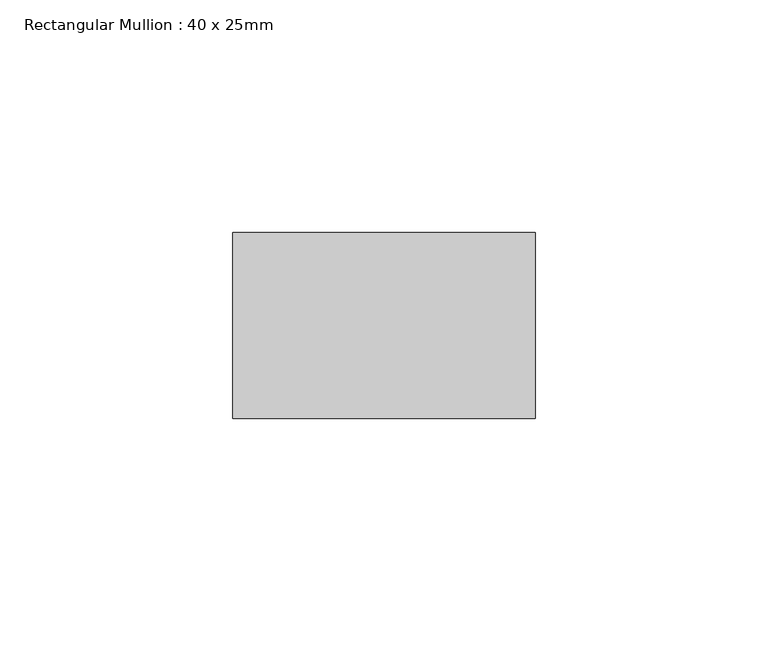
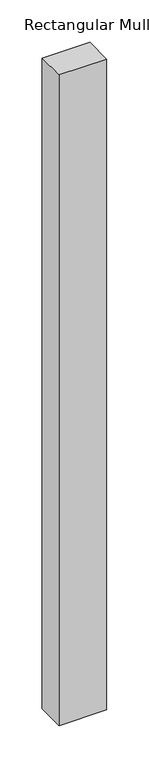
"""IFC4 building model written with IfcOpenShell, lengths in millimetres: member geometry, Rectangular Mullion : 40 x 25mm."""

from ifc_helpers import new_model, si_unit, frame, origin, place, context, project, spatial, polyline, outline, extrude, source, transform, mapped, element, save


def rectangular_mullion_40_x_25mm_f0e18f9c(model_context):
    return source(origin(), model_context, "Body", "SweptSolid", [
        extrude(outline(polyline([(0.0, -20.0), (0.0, -60.0), (-65.0, -60.0), (-65.0, -20.0), (0.0, -20.0)])), frame((0.0, 0.0, -937.9333333), z_axis=(0.0, 0.0, 1.0), x_axis=(1.0, 0.0, 0.0)), (0.0, 0.0, 1.0), 937.9333333),
    ])


if __name__ == "__main__":
    model = new_model("IFC4")
    model_context = context("Model", 3, world=origin())
    ifc_project = project(units=[si_unit("LENGTHUNIT", "METRE", prefix="MILLI")], contexts=[model_context])
    site = spatial("IfcSite", under=ifc_project)
    building = spatial("IfcBuilding", under=site)
    placement = place(None, origin())
    rectangular_mullion_40_x_25mm_shape = rectangular_mullion_40_x_25mm_f0e18f9c(model_context)
    element("IfcMember", 1, ObjectType="Rectangular Mullion : 40 x 25mm", at=placement, inside=building, context=model_context, shape_type="MappedRepresentation", body=[
        mapped(rectangular_mullion_40_x_25mm_shape, transform((0.0, 0.0, 0.0), x_axis=(1.0, 0.0, 0.0), y_axis=(0.0, 1.0, 0.0), z_axis=(0.0, 0.0, 1.0))),
    ])
    save(model, "model.ifc")
